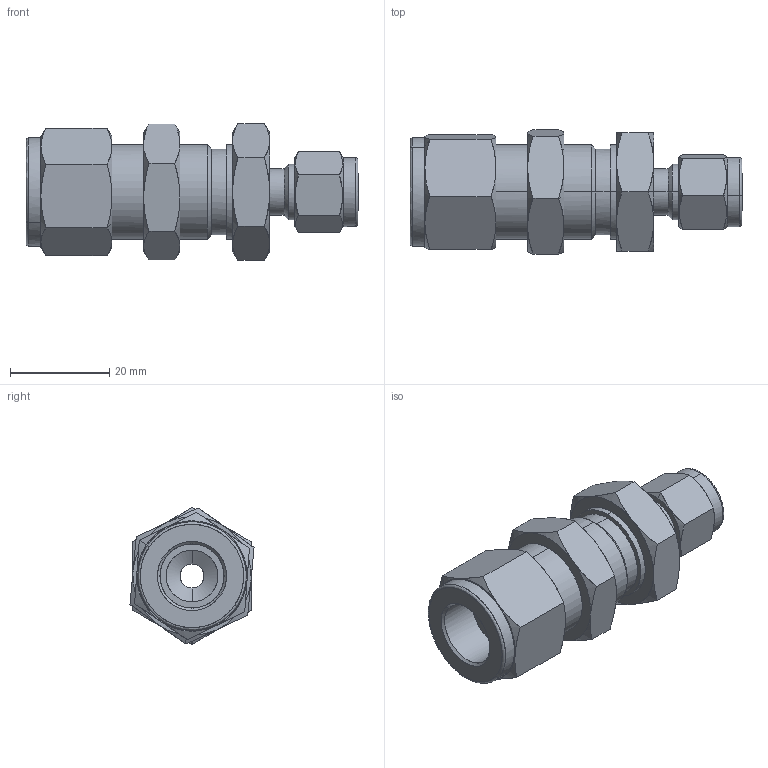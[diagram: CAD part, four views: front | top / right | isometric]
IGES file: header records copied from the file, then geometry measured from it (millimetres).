
Start section: Comment
Global section: file name: SBHRU8-4.igs; native system:  By UGS Corp.; preprocessor: XPlus GENERIC/IGES 3.0; author: Author; organization: Title; date: 20100528.112006; units: millimetre
Bounding box: 66.8 x 24.97 x 27.5 mm (x, y, z)
Surface area: 10527.2 mm2 (no closed solid volume)
Topology: 0 solids, 0 shells, 146 faces, 664 edges, 664 vertices
Faces by surface type: bspline 146
